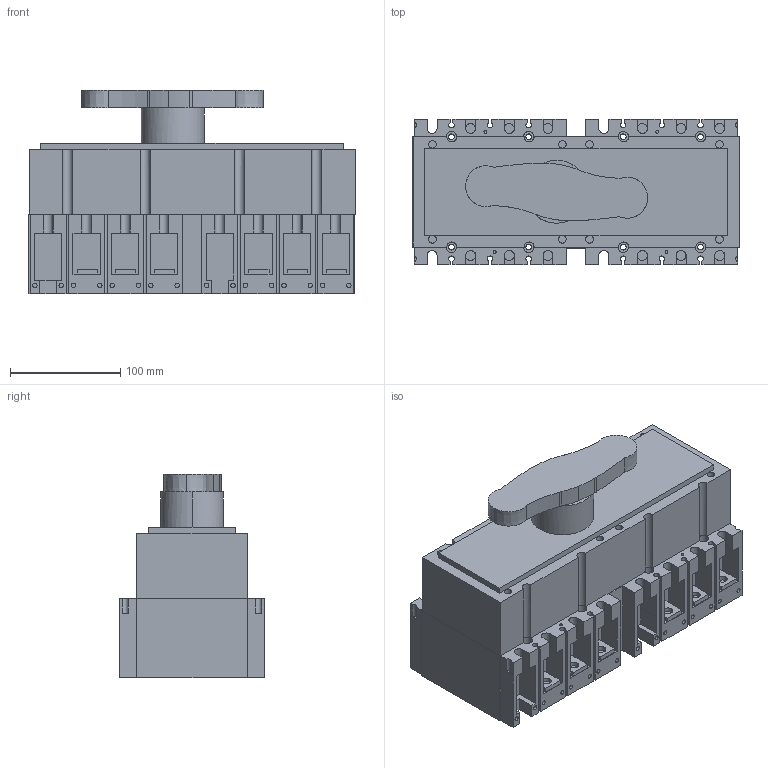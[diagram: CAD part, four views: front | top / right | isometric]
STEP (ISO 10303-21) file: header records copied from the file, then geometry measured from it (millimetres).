
FILE_DESCRIPTION((''),'2;1');
FILE_NAME('SB105802_3D_COLOUR','2013-07-24T',('SESA214371'),('Schneider-Electric'),'PRO/ENGINEER BY PARAMETRIC TECHNOLOGY CORPORATION, 2011410','PRO/ENGINEER BY PARAMETRIC TECHNOLOGY CORPORATION, 2011410','');
FILE_SCHEMA(('CONFIG_CONTROL_DESIGN'));
Length unit declared in the file: millimetre
Products named in the file (1): SB105802_3D_COLOUR
Bounding box: 295.4 x 132 x 184.29 mm (x, y, z)
Volume: 4243005.3 mm3; surface area: 320538.4 mm2
Topology: 1 solids, 1 shells, 580 faces, 1592 edges, 1074 vertices
Faces by surface type: plane 374, cylinder 202, extrusion 4
Entity records: 18774 total; most frequent: CARTESIAN_POINT 3406, DIRECTION 3240, ORIENTED_EDGE 3184, EDGE_CURVE 1592, VECTOR 1088, LINE 1084, AXIS2_PLACEMENT_3D 1076, VERTEX_POINT 1074
